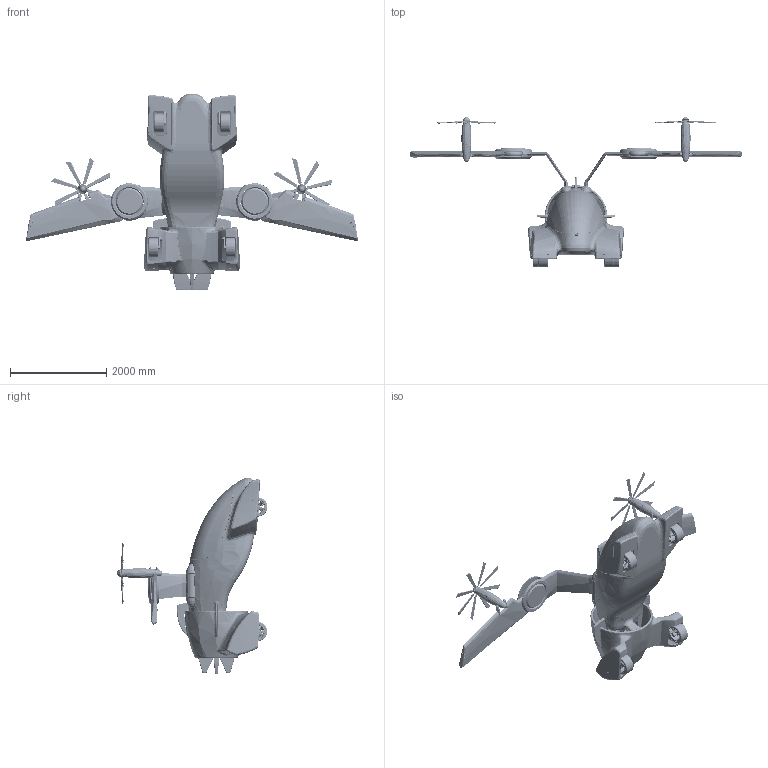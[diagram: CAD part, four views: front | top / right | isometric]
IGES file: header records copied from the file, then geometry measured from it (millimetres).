
Start section: SolidWorks IGES file using analytic representation for surfaces
Global section: file name: C:\Users\Ridwan\Desktop\One Model\R-TFC 007 Flying Car\R-TFC 007.IGS; native system: SolidWorks 2014; preprocessor: SolidWorks 2014; author: Ridwan; date: 160119.134113; units: millimetre
Bounding box: 6915.05 x 3136.53 x 4100.22 mm (x, y, z)
Surface area: 82841812.9 mm2 (no closed solid volume)
Topology: 0 solids, 0 shells, 6069 faces, 106501 edges, 106470 vertices
Faces by surface type: bspline 4993, revolution 1076
